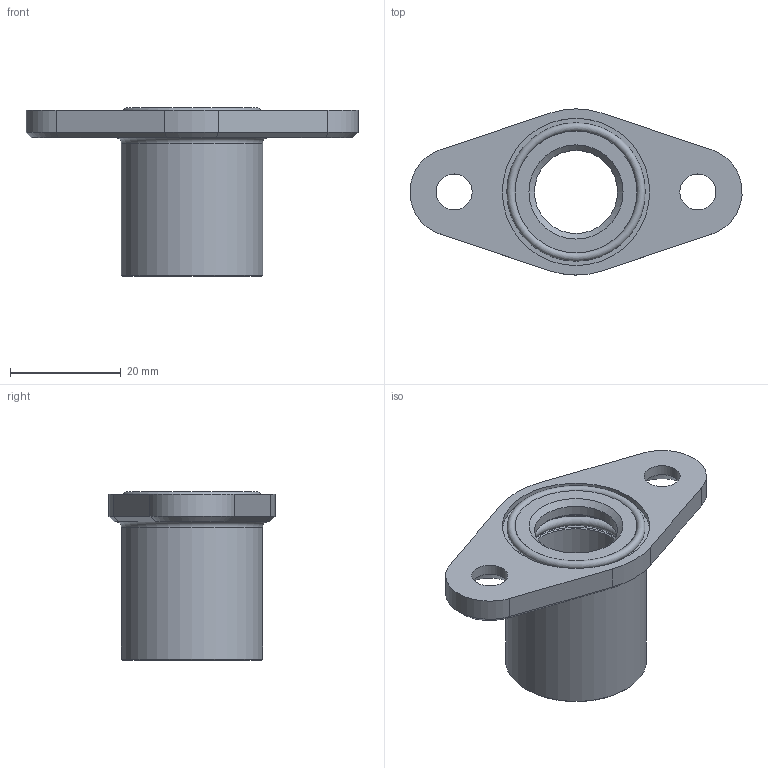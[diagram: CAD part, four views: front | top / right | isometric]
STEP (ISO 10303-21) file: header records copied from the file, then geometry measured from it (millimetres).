
FILE_DESCRIPTION(/* description */ (''),/* implementation_level */ '2;1');
FILE_NAME(/* name */ 'Befestigung_5_Flanschbuchse.stp',/* time_stamp */ '2012-01-19T14:23:26+01:00',/* author */ (''),/* organization */ (''),/* preprocessor_version */ 'ST-DEVELOPER v11',/* originating_system */ 'UGS - NX 5.0',/* authorisation */ '');
FILE_SCHEMA (('AP203_CONFIGURATION_CONTROLLED_3D_DESIGN_OF_MECHANICAL_PARTS_AND_ASSEMBLIES_MIM_LF'));
Length unit declared in the file: millimetre
Products named in the file (4): 509537_01; 503558_01; 301081_06; 301079-5_06
Assembly tree (3 placements, depth 2):
  301079-5_06
    301081_06
    503558_01
    509537_01
Bounding box: 59.94 x 30 x 30.4 mm (x, y, z)
Volume: 10055.7 mm3; surface area: 7542.5 mm2
Topology: 3 solids, 3 shells, 50 faces, 106 edges, 64 vertices
Faces by surface type: plane 16, cylinder 16, cone 15, torus 3
Full cylindrical faces by diameter (mm): 6.5 x2, 15 x1, 18.5 x3, 20.4 x2, 21 x1, 22 x1, 25.5 x1, 26.6 x1
Entity records: 1622 total; most frequent: DIRECTION 218, CARTESIAN_POINT 210, ORIENTED_EDGE 146, AXIS2_PLACEMENT_3D 99, EDGE_LOOP 84, EDGE_CURVE 73, FACE_BOUND 70, VERTEX_POINT 59
